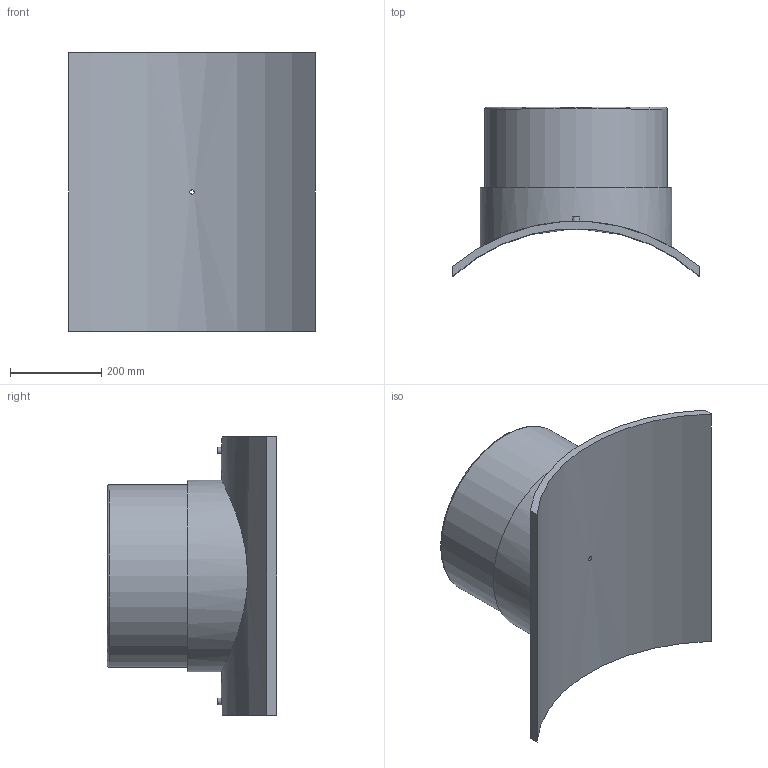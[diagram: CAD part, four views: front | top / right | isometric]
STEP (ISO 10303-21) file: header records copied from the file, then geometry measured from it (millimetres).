
FILE_DESCRIPTION(/* description */ ('PLASSON BRANCH SADDLE 800x400'),/* implementation_level */ '2;1');
FILE_NAME(/* name */ 'C:\Dropbox\KIMPROJECTS-Inventor 2019\99-16-3568-Processing\ElectroFusion Fittings\495803\stp\495803800400T.stp',/* time_stamp */ '2024-04-04T11:58:07+02:00',/* author */ ('KIM'),/* organization */ (''),/* preprocessor_version */ 'ST-DEVELOPER v17.2',/* originating_system */ 'Autodesk Inventor 2019',/* authorisation */ '');
FILE_SCHEMA (('AUTOMOTIVE_DESIGN { 1 0 10303 214 3 1 1 }'));
Length unit declared in the file: millimetre
Products named in the file (1): 495803800400T
Bounding box: 540 x 370.87 x 610 mm (x, y, z)
Volume: 19313101.7 mm3; surface area: 1393123.7 mm2
Topology: 1 solids, 1 shells, 29 faces, 60 edges, 43 vertices
Faces by surface type: plane 13, cylinder 12, torus 2, cone 2
Full cylindrical faces by diameter (mm): 4 x2, 9.6 x1, 10 x2, 16 x1, 320 x1, 400 x1, 420 x1
Entity records: 1118 total; most frequent: CARTESIAN_POINT 432, DIRECTION 139, ORIENTED_EDGE 120, EDGE_CURVE 60, AXIS2_PLACEMENT_3D 60, VERTEX_POINT 43, EDGE_LOOP 41, CIRCLE 30
